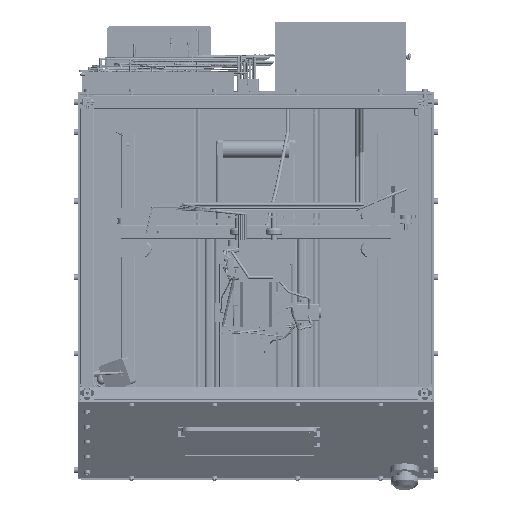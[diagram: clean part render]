
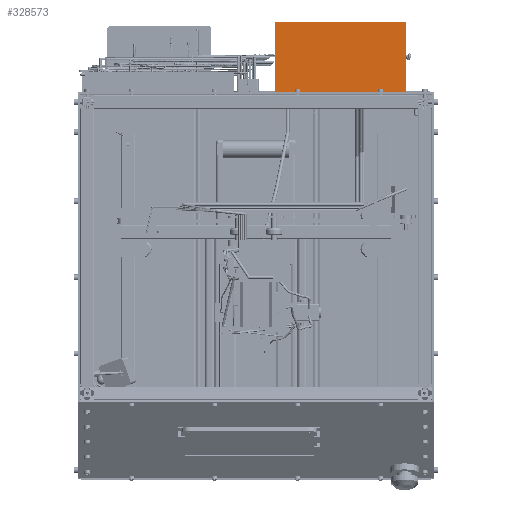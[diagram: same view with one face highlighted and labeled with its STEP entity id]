
A CAD part, top view. The second image highlights one B-rep face of the part: STEP entity #328573.
In plain terms, the highlighted planar face has unit normal (0, 0, 1).
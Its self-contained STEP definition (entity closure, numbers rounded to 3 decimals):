
#328384 = VERTEX_POINT('',#328385);
#328385 = CARTESIAN_POINT('',(28.,258.,266.));
#328392 = PLANE('',#328393);
#328393 = AXIS2_PLACEMENT_3D('',#328394,#328395,#328396);
#328394 = CARTESIAN_POINT('',(28.,258.,263.));
#328395 = DIRECTION('',(1.,0.,0.));
#328396 = DIRECTION('',(0.,0.,1.));
#328404 = PLANE('',#328405);
#328405 = AXIS2_PLACEMENT_3D('',#328406,#328407,#328408);
#328406 = CARTESIAN_POINT('',(28.,258.,263.));
#328407 = DIRECTION('',(0.,1.,0.));
#328408 = DIRECTION('',(0.,0.,1.));
#328445 = VERTEX_POINT('',#328446);
#328446 = CARTESIAN_POINT('',(28.,360.,266.));
#328460 = PLANE('',#328461);
#328461 = AXIS2_PLACEMENT_3D('',#328462,#328463,#328464);
#328462 = CARTESIAN_POINT('',(28.,360.,263.));
#328463 = DIRECTION('',(0.,1.,0.));
#328464 = DIRECTION('',(0.,0.,1.));
#328472 = EDGE_CURVE('',#328384,#328445,#328473,.T.);
#328473 = SURFACE_CURVE('',#328474,(#328478,#328485),.PCURVE_S1.);
#328474 = LINE('',#328475,#328476);
#328475 = CARTESIAN_POINT('',(28.,258.,266.));
#328476 = VECTOR('',#328477,1.);
#328477 = DIRECTION('',(0.,1.,0.));
#328478 = PCURVE('',#328392,#328479);
#328479 = DEFINITIONAL_REPRESENTATION('',(#328480),#328484);
#328480 = LINE('',#328481,#328482);
#328481 = CARTESIAN_POINT('',(3.,0.));
#328482 = VECTOR('',#328483,1.);
#328483 = DIRECTION('',(0.,-1.));
#328484 = ( GEOMETRIC_REPRESENTATION_CONTEXT(2) 
PARAMETRIC_REPRESENTATION_CONTEXT() REPRESENTATION_CONTEXT('2D SPACE',''
  ) );
#328485 = PCURVE('',#328486,#328491);
#328486 = PLANE('',#328487);
#328487 = AXIS2_PLACEMENT_3D('',#328488,#328489,#328490);
#328488 = CARTESIAN_POINT('',(28.,258.,266.));
#328489 = DIRECTION('',(0.,0.,1.));
#328490 = DIRECTION('',(1.,0.,0.));
#328491 = DEFINITIONAL_REPRESENTATION('',(#328492),#328496);
#328492 = LINE('',#328493,#328494);
#328493 = CARTESIAN_POINT('',(0.,0.));
#328494 = VECTOR('',#328495,1.);
#328495 = DIRECTION('',(0.,1.));
#328496 = ( GEOMETRIC_REPRESENTATION_CONTEXT(2) 
PARAMETRIC_REPRESENTATION_CONTEXT() REPRESENTATION_CONTEXT('2D SPACE',''
  ) );
#328525 = EDGE_CURVE('',#328384,#328526,#328528,.T.);
#328526 = VERTEX_POINT('',#328527);
#328527 = CARTESIAN_POINT('',(217.,258.,266.));
#328528 = SURFACE_CURVE('',#328529,(#328533,#328540),.PCURVE_S1.);
#328529 = LINE('',#328530,#328531);
#328530 = CARTESIAN_POINT('',(28.,258.,266.));
#328531 = VECTOR('',#328532,1.);
#328532 = DIRECTION('',(1.,0.,0.));
#328533 = PCURVE('',#328404,#328534);
#328534 = DEFINITIONAL_REPRESENTATION('',(#328535),#328539);
#328535 = LINE('',#328536,#328537);
#328536 = CARTESIAN_POINT('',(3.,0.));
#328537 = VECTOR('',#328538,1.);
#328538 = DIRECTION('',(0.,1.));
#328539 = ( GEOMETRIC_REPRESENTATION_CONTEXT(2) 
PARAMETRIC_REPRESENTATION_CONTEXT() REPRESENTATION_CONTEXT('2D SPACE',''
  ) );
#328540 = PCURVE('',#328486,#328541);
#328541 = DEFINITIONAL_REPRESENTATION('',(#328542),#328546);
#328542 = LINE('',#328543,#328544);
#328543 = CARTESIAN_POINT('',(0.,0.));
#328544 = VECTOR('',#328545,1.);
#328545 = DIRECTION('',(1.,0.));
#328546 = ( GEOMETRIC_REPRESENTATION_CONTEXT(2) 
PARAMETRIC_REPRESENTATION_CONTEXT() REPRESENTATION_CONTEXT('2D SPACE',''
  ) );
#328562 = PLANE('',#328563);
#328563 = AXIS2_PLACEMENT_3D('',#328564,#328565,#328566);
#328564 = CARTESIAN_POINT('',(217.,258.,263.));
#328565 = DIRECTION('',(1.,0.,0.));
#328566 = DIRECTION('',(0.,0.,1.));
#328573 = ADVANCED_FACE('',(#328574),#328486,.T.);
#328574 = FACE_BOUND('',#328575,.T.);
#328575 = EDGE_LOOP('',(#328576,#328577,#328578,#328601));
#328576 = ORIENTED_EDGE('',*,*,#328472,.F.);
#328577 = ORIENTED_EDGE('',*,*,#328525,.T.);
#328578 = ORIENTED_EDGE('',*,*,#328579,.T.);
#328579 = EDGE_CURVE('',#328526,#328580,#328582,.T.);
#328580 = VERTEX_POINT('',#328581);
#328581 = CARTESIAN_POINT('',(217.,360.,266.));
#328582 = SURFACE_CURVE('',#328583,(#328587,#328594),.PCURVE_S1.);
#328583 = LINE('',#328584,#328585);
#328584 = CARTESIAN_POINT('',(217.,258.,266.));
#328585 = VECTOR('',#328586,1.);
#328586 = DIRECTION('',(0.,1.,0.));
#328587 = PCURVE('',#328486,#328588);
#328588 = DEFINITIONAL_REPRESENTATION('',(#328589),#328593);
#328589 = LINE('',#328590,#328591);
#328590 = CARTESIAN_POINT('',(189.,0.));
#328591 = VECTOR('',#328592,1.);
#328592 = DIRECTION('',(0.,1.));
#328593 = ( GEOMETRIC_REPRESENTATION_CONTEXT(2) 
PARAMETRIC_REPRESENTATION_CONTEXT() REPRESENTATION_CONTEXT('2D SPACE',''
  ) );
#328594 = PCURVE('',#328562,#328595);
#328595 = DEFINITIONAL_REPRESENTATION('',(#328596),#328600);
#328596 = LINE('',#328597,#328598);
#328597 = CARTESIAN_POINT('',(3.,0.));
#328598 = VECTOR('',#328599,1.);
#328599 = DIRECTION('',(0.,-1.));
#328600 = ( GEOMETRIC_REPRESENTATION_CONTEXT(2) 
PARAMETRIC_REPRESENTATION_CONTEXT() REPRESENTATION_CONTEXT('2D SPACE',''
  ) );
#328601 = ORIENTED_EDGE('',*,*,#328602,.F.);
#328602 = EDGE_CURVE('',#328445,#328580,#328603,.T.);
#328603 = SURFACE_CURVE('',#328604,(#328608,#328615),.PCURVE_S1.);
#328604 = LINE('',#328605,#328606);
#328605 = CARTESIAN_POINT('',(28.,360.,266.));
#328606 = VECTOR('',#328607,1.);
#328607 = DIRECTION('',(1.,0.,0.));
#328608 = PCURVE('',#328486,#328609);
#328609 = DEFINITIONAL_REPRESENTATION('',(#328610),#328614);
#328610 = LINE('',#328611,#328612);
#328611 = CARTESIAN_POINT('',(0.,102.));
#328612 = VECTOR('',#328613,1.);
#328613 = DIRECTION('',(1.,0.));
#328614 = ( GEOMETRIC_REPRESENTATION_CONTEXT(2) 
PARAMETRIC_REPRESENTATION_CONTEXT() REPRESENTATION_CONTEXT('2D SPACE',''
  ) );
#328615 = PCURVE('',#328460,#328616);
#328616 = DEFINITIONAL_REPRESENTATION('',(#328617),#328621);
#328617 = LINE('',#328618,#328619);
#328618 = CARTESIAN_POINT('',(3.,0.));
#328619 = VECTOR('',#328620,1.);
#328620 = DIRECTION('',(0.,1.));
#328621 = ( GEOMETRIC_REPRESENTATION_CONTEXT(2) 
PARAMETRIC_REPRESENTATION_CONTEXT() REPRESENTATION_CONTEXT('2D SPACE',''
  ) );
